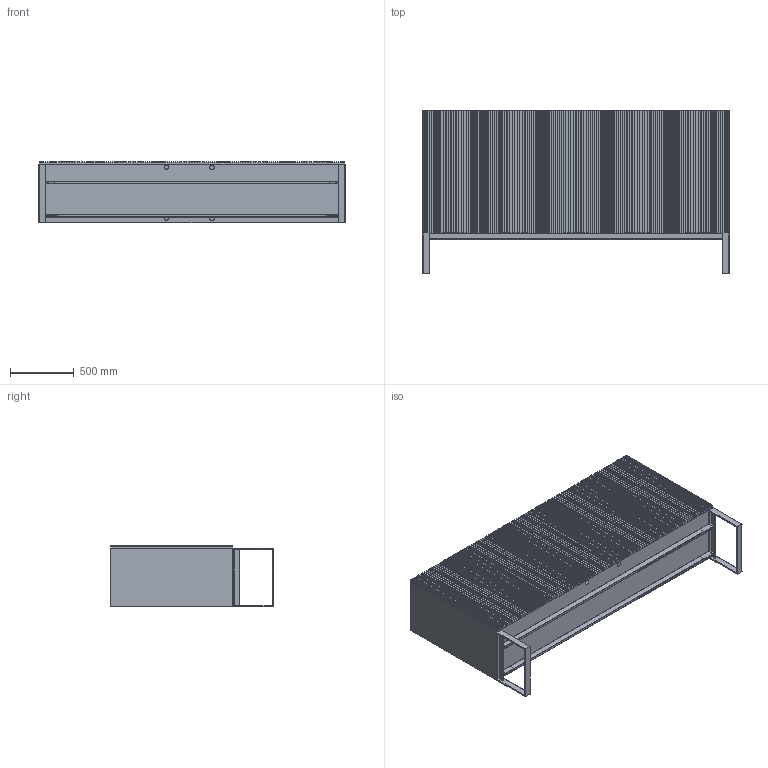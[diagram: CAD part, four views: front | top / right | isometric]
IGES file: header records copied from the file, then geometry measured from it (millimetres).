
Start section: SolidWorks IGES file using analytic representation for surfaces
Global section: file name: C:\Users\serena.trevisiol\Desktop\Nuova cartella\CARLOS cm 240X49X128H.IGS; native system: SolidWorks 2016; preprocessor: SolidWorks 2016; author: serena.trevisiol; date: 160609.090906; units: millimetre
Bounding box: 2400 x 1280 x 484 mm (x, y, z)
Surface area: 26976582.8 mm2 (no closed solid volume)
Topology: 0 solids, 0 shells, 1808 faces, 10250 edges, 10242 vertices
Faces by surface type: bspline 1720, revolution 88
